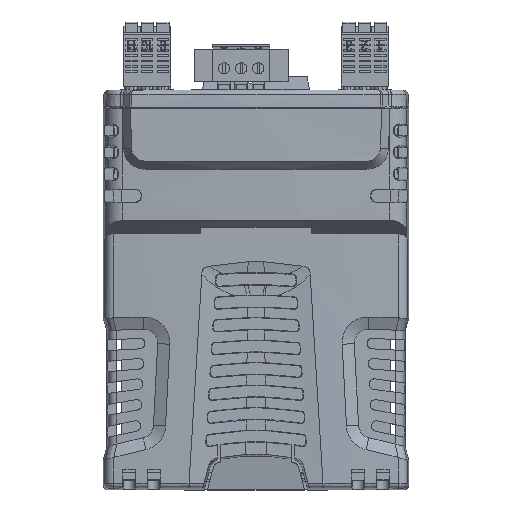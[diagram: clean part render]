
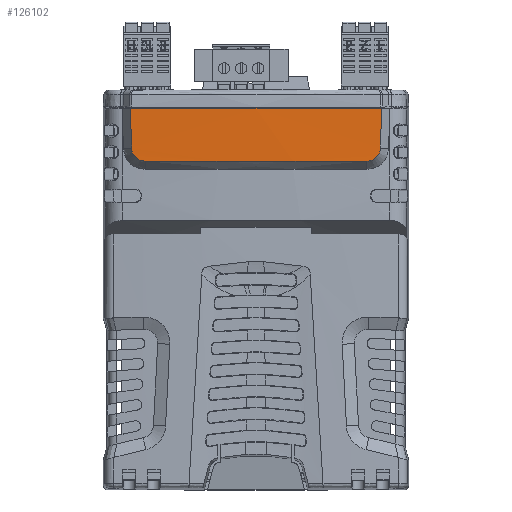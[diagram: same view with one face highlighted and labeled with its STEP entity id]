
A CAD part, top view. The second image highlights one B-rep face of the part: STEP entity #126102.
In plain terms, the highlighted cylindrical face has radius 800 mm (diameter 1600 mm), a partial arc.
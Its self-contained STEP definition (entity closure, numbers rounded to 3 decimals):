
#32794=CARTESIAN_POINT('',(-27.99,84.5,
24.06));
#32795=CARTESIAN_POINT('',(-9.33,84.488,
24.713));
#32796=CARTESIAN_POINT('',(9.33,84.488,24.713));
#32797=CARTESIAN_POINT('',(27.99,84.5,24.06));
#32799=DIRECTION('',(-0.035,-0.999,0.001));
#32800=VECTOR('',#32799,8.83);
#32801=CARTESIAN_POINT('',(27.99,84.5,24.06));
#32802=LINE('',#32801,#32800);
#32803=CARTESIAN_POINT('',(27.682,75.675,24.071));
#32804=CARTESIAN_POINT('',(27.667,75.231,24.071));
#32805=CARTESIAN_POINT('',(27.487,74.433,24.078));
#32806=CARTESIAN_POINT('',(26.864,73.524,24.099));
#32807=CARTESIAN_POINT('',(25.934,72.932,24.13));
#32808=CARTESIAN_POINT('',(25.129,72.78,24.155));
#32809=CARTESIAN_POINT('',(24.684,72.78,24.169));
#32811=CARTESIAN_POINT('',(0.,72.78,-775.45));
#32812=DIRECTION('',(0.,-1.,0.));
#32813=DIRECTION('',(0.031,0.,1.));
#32814=AXIS2_PLACEMENT_3D('',#32811,#32812,#32813);
#32816=CARTESIAN_POINT('',(-24.684,72.78,24.169));
#32817=CARTESIAN_POINT('',(-25.129,72.78,24.155));
#32818=CARTESIAN_POINT('',(-25.934,72.932,
24.13));
#32819=CARTESIAN_POINT('',(-26.864,73.524,
24.099));
#32820=CARTESIAN_POINT('',(-27.487,74.433,
24.078));
#32821=CARTESIAN_POINT('',(-27.667,75.231,
24.071));
#32822=CARTESIAN_POINT('',(-27.682,75.675,
24.071));
#32824=DIRECTION('',(-0.035,0.999,-0.001));
#32825=VECTOR('',#32824,8.83);
#32826=CARTESIAN_POINT('',(-27.682,75.675,
24.071));
#32827=LINE('',#32826,#32825);
#63824=CARTESIAN_POINT('',(24.684,72.78,24.169));
#63825=CARTESIAN_POINT('',(-24.684,72.78,
24.169));
#63826=VERTEX_POINT('',#63824);
#63827=VERTEX_POINT('',#63825);
#63828=VERTEX_POINT('',#32803);
#63829=VERTEX_POINT('',#32822);
#63838=CARTESIAN_POINT('',(27.99,84.5,24.06));
#63839=VERTEX_POINT('',#63838);
#63840=CARTESIAN_POINT('',(-27.99,84.5,
24.06));
#63841=VERTEX_POINT('',#63840);
#126085=CARTESIAN_POINT('',(0.,84.78,-775.45));
#126086=DIRECTION('',(0.,1.,0.));
#126087=DIRECTION('',(-1.,0.,0.));
#126088=AXIS2_PLACEMENT_3D('',#126085,#126086,#126087);
#126089=CYLINDRICAL_SURFACE('',#126088,800.);
#126090=ORIENTED_EDGE('',*,*,#114720,.T.);
#126092=ORIENTED_EDGE('',*,*,#126091,.T.);
#126094=ORIENTED_EDGE('',*,*,#126093,.T.);
#126096=ORIENTED_EDGE('',*,*,#126095,.T.);
#126098=ORIENTED_EDGE('',*,*,#126097,.T.);
#126099=ORIENTED_EDGE('',*,*,#126070,.T.);
#126100=EDGE_LOOP('',(#126090,#126092,#126094,#126096,#126098,#126099));
#126101=FACE_OUTER_BOUND('',#126100,.F.);
#32798=B_SPLINE_CURVE_WITH_KNOTS('',3,(#32794,#32795,#32796,#32797),
.UNSPECIFIED.,.F.,.F.,(4,4),(0.,1.),.UNSPECIFIED.);
#32810=B_SPLINE_CURVE_WITH_KNOTS('',3,(#32803,#32804,#32805,#32806,#32807,
#32808,#32809),.UNSPECIFIED.,.F.,.F.,(4,1,1,1,4),(0.,0.25,0.5,0.75,
1.),.UNSPECIFIED.);
#32815=CIRCLE('',#32814,800.);
#32823=B_SPLINE_CURVE_WITH_KNOTS('',3,(#32816,#32817,#32818,#32819,#32820,
#32821,#32822),.UNSPECIFIED.,.F.,.F.,(4,1,1,1,4),(0.,0.25,0.5,0.75,
1.),.UNSPECIFIED.);
#114720=EDGE_CURVE('',#63841,#63839,#32798,.T.);
#126070=EDGE_CURVE('',#63829,#63841,#32827,.T.);
#126091=EDGE_CURVE('',#63839,#63828,#32802,.T.);
#126093=EDGE_CURVE('',#63828,#63826,#32810,.T.);
#126095=EDGE_CURVE('',#63826,#63827,#32815,.T.);
#126097=EDGE_CURVE('',#63827,#63829,#32823,.T.);
#126102=ADVANCED_FACE('',(#126101),#126089,.T.);
